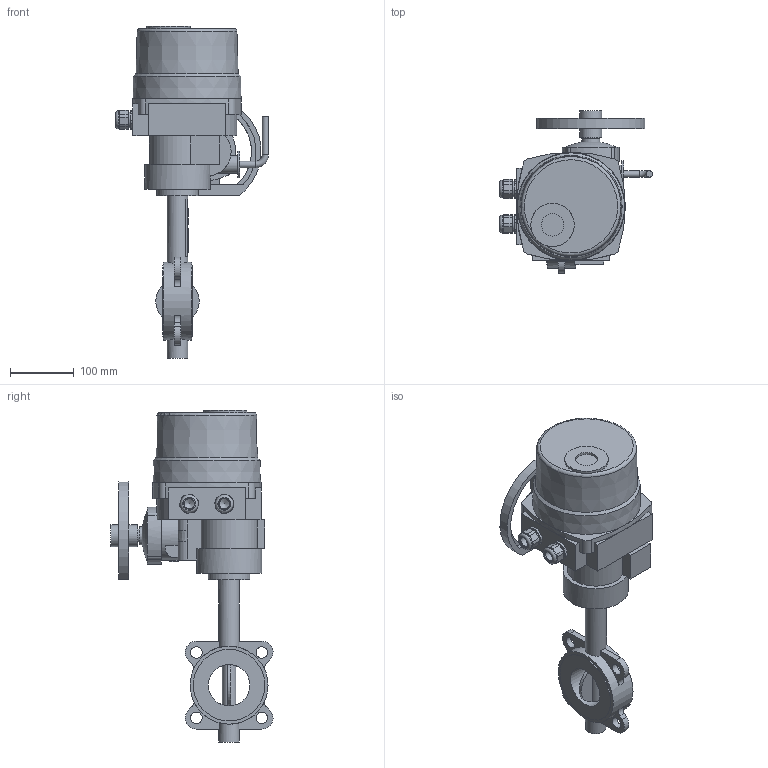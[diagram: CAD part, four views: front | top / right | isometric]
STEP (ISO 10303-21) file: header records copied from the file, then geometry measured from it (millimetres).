
FILE_DESCRIPTION(('STEP AP203'), '1');
FILE_NAME('青蜮铕 017WDN65+菹 QT5-1', '', ('UNSPECIFIED'), ('UNSPECIFIED'), 'ASCON STEP Converter 1.6', 'ASCON Math Kernel', '');
FILE_SCHEMA(('CONFIG_CONTROL_DESIGN'));
Length unit declared in the file: millimetre
Bounding box: 239.5 x 253.74 x 520 mm (x, y, z)
Volume: 5072498.8 mm3; surface area: 352438.1 mm2
Topology: 2 solids, 3 shells, 814 faces, 2318 edges, 1490 vertices
Faces by surface type: cylinder 524, plane 275, cone 9, torus 5, bspline 1
Full cylindrical faces by diameter (mm): 4.917 x4, 8 x4, 10 x2, 12.6 x1, 16 x2, 17 x2, 18 x4, 20 x1, 22.835 x2, 25 x2, 28 x3, 28.026 x1, 32 x2, 34 x2, 35 x2, 40 x1, 42 x1, 65 x2, 68 x1, 102 x1, 112 x2, 122 x1
Entity records: 34463 total; most frequent: CARTESIAN_POINT 5952, DIRECTION 4969, ORIENTED_EDGE 4449, EDGE_CURVE 2256, AXIS2_PLACEMENT_3D 1942, VERTEX_POINT 1484, CIRCLE 1128, LINE 1085
